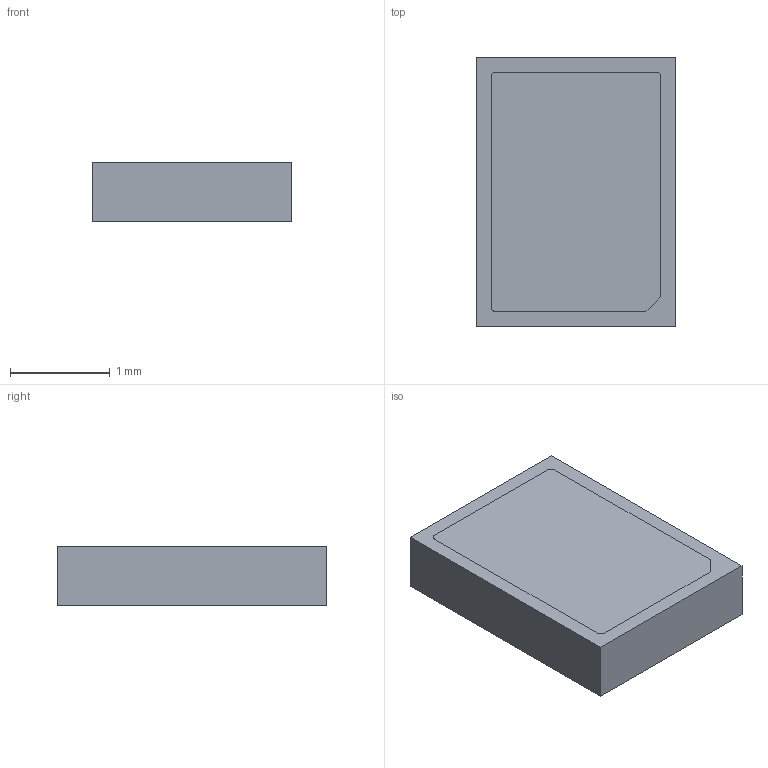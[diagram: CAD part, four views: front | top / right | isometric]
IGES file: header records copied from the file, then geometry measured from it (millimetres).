
Start section: SolidWorks IGES file using analytic representation for surfaces
Global section: file name: C:\Users\user\Desktop\SW22\ヶ蚾陬腑3D恅璃\LWKB.IGS; native system: SolidWorks 2022; preprocessor: SolidWorks 2022; author: user; date: 240126.044742; units: millimetre
Bounding box: 2 x 2.7 x 0.6 mm (x, y, z)
Surface area: 16.4 mm2 (no closed solid volume)
Topology: 0 solids, 0 shells, 9 faces, 62 edges, 62 vertices
Faces by surface type: bspline 9
